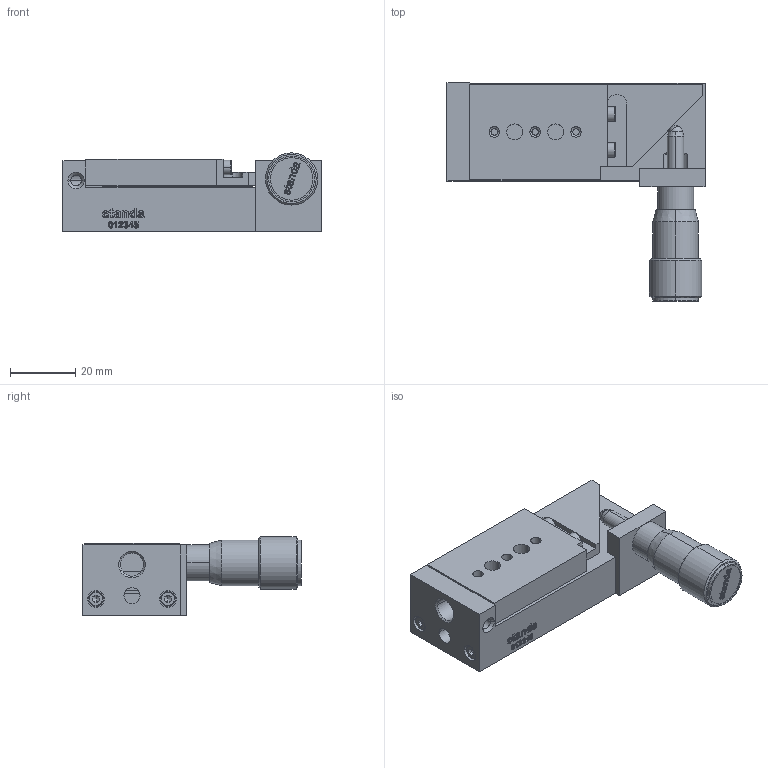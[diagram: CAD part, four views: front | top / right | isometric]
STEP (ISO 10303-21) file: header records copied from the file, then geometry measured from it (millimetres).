
FILE_DESCRIPTION (( 'STEP AP203' ), '1' );
FILE_NAME ('7T173-10T.STEP', '2009-03-27T09:43:30', ( 'Darius' ), ( '' ), 'SwSTEP 2.0', 'SolidWorks 2003240', '' );
FILE_SCHEMA (( 'CONFIG_CONTROL_DESIGN' ));
Length unit declared in the file: millimetre
Products named in the file (1): 7T173-10T
Bounding box: 79 x 66.74 x 24 mm (x, y, z)
Volume: 46905.4 mm3; surface area: 23142 mm2
Topology: 1 solids, 21 shells, 944 faces, 2416 edges, 1561 vertices
Faces by surface type: plane 411, cylinder 222, bspline 189, cone 84, torus 38
Entity records: 37178 total; most frequent: CARTESIAN_POINT 15465, ORIENTED_EDGE 4752, DIRECTION 3881, EDGE_CURVE 2376, VERTEX_POINT 1561, AXIS2_PLACEMENT_3D 1313, VECTOR 1255, LINE 1255
